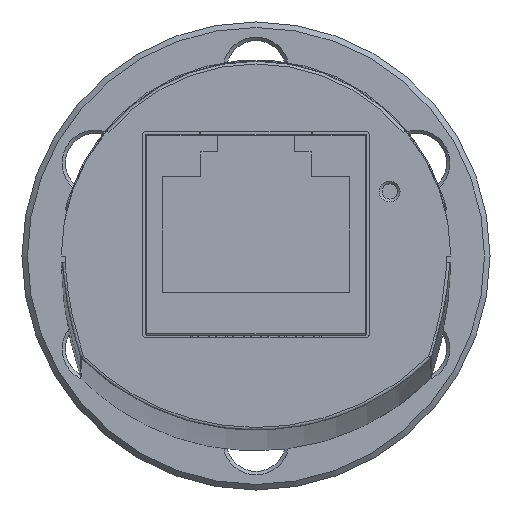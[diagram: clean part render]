
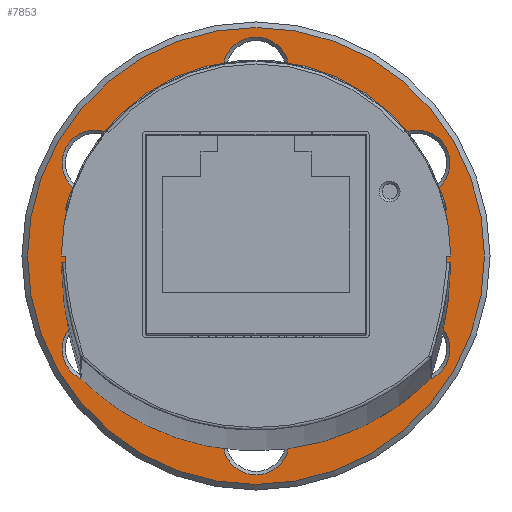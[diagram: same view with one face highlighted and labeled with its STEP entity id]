
A CAD part, left-side view. The second image highlights one B-rep face of the part: STEP entity #7853.
In plain terms, the highlighted planar face has unit normal (-1, 0, 0).
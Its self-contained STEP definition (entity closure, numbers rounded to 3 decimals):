
#1613=FACE_BOUND($,#2505,.T.);
#1614=FACE_BOUND($,#2506,.T.);
#1615=FACE_BOUND($,#2507,.T.);
#1616=FACE_BOUND($,#2508,.T.);
#1617=FACE_BOUND($,#2509,.T.);
#1618=FACE_BOUND($,#2510,.T.);
#1619=FACE_BOUND($,#2511,.T.);
#1620=FACE_BOUND($,#2512,.T.);
#2505=EDGE_LOOP($,(#6211));
#2506=EDGE_LOOP($,(#6212));
#2507=EDGE_LOOP($,(#6213));
#2508=EDGE_LOOP($,(#6214));
#2509=EDGE_LOOP($,(#6215));
#2510=EDGE_LOOP($,(#6216));
#2511=EDGE_LOOP($,(#6217));
#2512=EDGE_LOOP($,(#6218));
#2867=CIRCLE($,#8431,2.4);
#2869=CIRCLE($,#8435,2.4);
#2870=CIRCLE($,#8436,2.4);
#2871=CIRCLE($,#8437,2.4);
#2872=CIRCLE($,#8438,9.3);
#2873=CIRCLE($,#8439,16.6);
#2874=CIRCLE($,#8440,2.4);
#2875=CIRCLE($,#8441,2.4);
#3495=VERTEX_POINT($,#12932);
#3497=VERTEX_POINT($,#12938);
#3498=VERTEX_POINT($,#12940);
#3499=VERTEX_POINT($,#12942);
#3500=VERTEX_POINT($,#12944);
#3501=VERTEX_POINT($,#12946);
#3502=VERTEX_POINT($,#12948);
#3503=VERTEX_POINT($,#12950);
#4463=EDGE_CURVE($,#3495,#3495,#2867,.T.);
#4465=EDGE_CURVE($,#3497,#3497,#2869,.T.);
#4466=EDGE_CURVE($,#3498,#3498,#2870,.T.);
#4467=EDGE_CURVE($,#3499,#3499,#2871,.T.);
#4468=EDGE_CURVE($,#3500,#3500,#2872,.T.);
#4469=EDGE_CURVE($,#3501,#3501,#2873,.T.);
#4470=EDGE_CURVE($,#3502,#3502,#2874,.T.);
#4471=EDGE_CURVE($,#3503,#3503,#2875,.T.);
#6211=ORIENTED_EDGE($,*,*,#4465,.F.);
#6212=ORIENTED_EDGE($,*,*,#4466,.F.);
#6213=ORIENTED_EDGE($,*,*,#4467,.F.);
#6214=ORIENTED_EDGE($,*,*,#4468,.T.);
#6215=ORIENTED_EDGE($,*,*,#4469,.F.);
#6216=ORIENTED_EDGE($,*,*,#4470,.F.);
#6217=ORIENTED_EDGE($,*,*,#4471,.F.);
#6218=ORIENTED_EDGE($,*,*,#4463,.F.);
#7092=PLANE($,#8434);
#7853=ADVANCED_FACE($,(#1613,#1614,#1615,#1616,#1617,#1618,#1619,#1620),
#7092,.T.);
#8431=AXIS2_PLACEMENT_3D($,#12933,#10070,#10071);
#8434=AXIS2_PLACEMENT_3D($,#12937,#10076,#10077);
#8435=AXIS2_PLACEMENT_3D($,#12939,#10078,#10079);
#8436=AXIS2_PLACEMENT_3D($,#12941,#10080,#10081);
#8437=AXIS2_PLACEMENT_3D($,#12943,#10082,#10083);
#8438=AXIS2_PLACEMENT_3D($,#12945,#10084,#10085);
#8439=AXIS2_PLACEMENT_3D($,#12947,#10086,#10087);
#8440=AXIS2_PLACEMENT_3D($,#12949,#10088,#10089);
#8441=AXIS2_PLACEMENT_3D($,#12951,#10090,#10091);
#10070=DIRECTION('center_axis',(-1.,0.,0.));
#10071=DIRECTION('ref_axis',(0.,0.866,0.5));
#10076=DIRECTION('center_axis',(-1.,0.,0.));
#10077=DIRECTION('ref_axis',(0.,0.,-1.));
#10078=DIRECTION('center_axis',(-1.,0.,0.));
#10079=DIRECTION('ref_axis',(0.,0.866,-0.5));
#10080=DIRECTION('center_axis',(-1.,0.,0.));
#10081=DIRECTION('ref_axis',(0.,-0.866,-0.5));
#10082=DIRECTION('center_axis',(-1.,0.,0.));
#10083=DIRECTION('ref_axis',(0.,0.,
1.));
#10084=DIRECTION('center_axis',(1.,0.,0.));
#10085=DIRECTION('ref_axis',(0.,-1.,0.));
#10086=DIRECTION('center_axis',(1.,0.,0.));
#10087=DIRECTION('ref_axis',(0.,1.,0.));
#10088=DIRECTION('center_axis',(-1.,0.,0.));
#10089=DIRECTION('ref_axis',(0.,-0.866,0.5));
#10090=DIRECTION('center_axis',(-1.,0.,0.));
#10091=DIRECTION('ref_axis',(0.,0.,
-1.));
#12932=CARTESIAN_POINT('',(40.7,-13.77,-7.95));
#12933=CARTESIAN_POINT('Origin',(40.7,-11.691,-6.75));
#12937=CARTESIAN_POINT('Origin',(40.7,-13.15,0.));
#12938=CARTESIAN_POINT('',(40.7,-13.77,7.95));
#12939=CARTESIAN_POINT('Origin',(40.7,-11.691,6.75));
#12940=CARTESIAN_POINT('',(40.7,13.77,7.95));
#12941=CARTESIAN_POINT('Origin',(40.7,11.691,6.75));
#12942=CARTESIAN_POINT('',(40.7,0.,-15.9));
#12943=CARTESIAN_POINT('Origin',(40.7,0.,
-13.5));
#12944=CARTESIAN_POINT('',(40.7,-9.3,0.));
#12945=CARTESIAN_POINT('Origin',(40.7,0.,
0.));
#12946=CARTESIAN_POINT('',(40.7,-16.6,0.));
#12947=CARTESIAN_POINT('Origin',(40.7,0.,
0.));
#12948=CARTESIAN_POINT('',(40.7,13.77,-7.95));
#12949=CARTESIAN_POINT('Origin',(40.7,11.691,-6.75));
#12950=CARTESIAN_POINT('',(40.7,0.,15.9));
#12951=CARTESIAN_POINT('Origin',(40.7,0.,
13.5));
